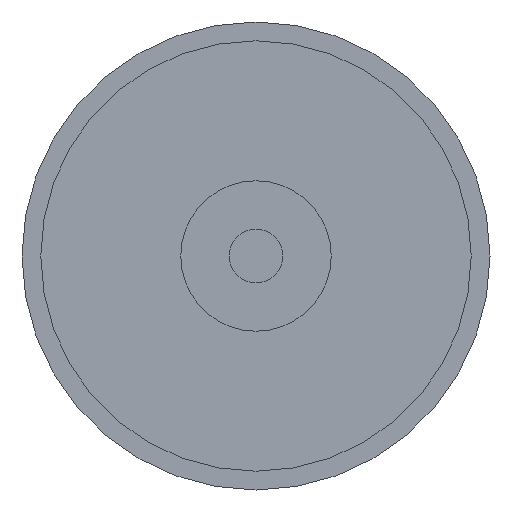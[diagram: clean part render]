
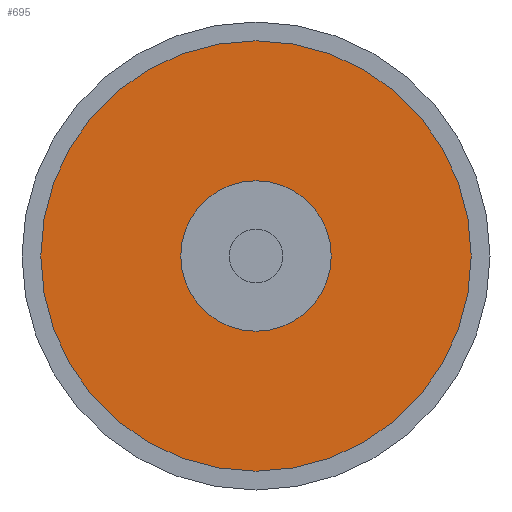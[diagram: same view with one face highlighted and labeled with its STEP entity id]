
A CAD part, front view. The second image highlights one B-rep face of the part: STEP entity #695.
In plain terms, the highlighted planar face has unit normal (0, -1, 0).
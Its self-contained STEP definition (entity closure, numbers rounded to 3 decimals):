
#11 = VERTEX_POINT ( 'NONE', #853 ) ;
#37 = EDGE_CURVE ( 'NONE', #672, #148, #1076, .T. ) ;
#83 = VERTEX_POINT ( 'NONE', #719 ) ;
#86 = DIRECTION ( 'NONE',  ( 0., 0., 1. ) ) ;
#148 = VERTEX_POINT ( 'NONE', #554 ) ;
#166 = DIRECTION ( 'NONE',  ( 0., 1., 0. ) ) ;
#170 = CARTESIAN_POINT ( 'NONE',  ( 1.824, -11.907, 0. ) ) ;
#210 = CARTESIAN_POINT ( 'NONE',  ( 1.824, -11.907, 25.75 ) ) ;
#235 = ORIENTED_EDGE ( 'NONE', *, *, #956, .T. ) ;
#245 = DIRECTION ( 'NONE',  ( 0., -1., 0. ) ) ;
#294 = ORIENTED_EDGE ( 'NONE', *, *, #603, .T. ) ;
#307 = FACE_BOUND ( 'NONE', #985, .T. ) ;
#309 = PLANE ( 'NONE',  #968 ) ;
#320 = AXIS2_PLACEMENT_3D ( 'NONE', #1155, #962, #1017 ) ;
#330 = CARTESIAN_POINT ( 'NONE',  ( 1.824, -11.907, 0. ) ) ;
#340 = DIRECTION ( 'NONE',  ( 0., 0., 1. ) ) ;
#396 = ORIENTED_EDGE ( 'NONE', *, *, #37, .T. ) ;
#510 = AXIS2_PLACEMENT_3D ( 'NONE', #330, #511, #1121 ) ;
#511 = DIRECTION ( 'NONE',  ( 0., 1., 0. ) ) ;
#554 = CARTESIAN_POINT ( 'NONE',  ( 1.824, -11.907, -25.75 ) ) ;
#603 = EDGE_CURVE ( 'NONE', #11, #83, #1007, .T. ) ;
#604 = AXIS2_PLACEMENT_3D ( 'NONE', #170, #166, #86 ) ;
#608 = AXIS2_PLACEMENT_3D ( 'NONE', #847, #245, #340 ) ;
#672 = VERTEX_POINT ( 'NONE', #210 ) ;
#691 = ORIENTED_EDGE ( 'NONE', *, *, #790, .T. ) ;
#695 = ADVANCED_FACE ( 'NONE', ( #1073, #307 ), #309, .T. ) ;
#719 = CARTESIAN_POINT ( 'NONE',  ( 1.824, -11.907, 9. ) ) ;
#790 = EDGE_CURVE ( 'NONE', #148, #672, #895, .T. ) ;
#799 = CIRCLE ( 'NONE', #510, 9. ) ;
#847 = CARTESIAN_POINT ( 'NONE',  ( 1.824, -11.907, 0. ) ) ;
#853 = CARTESIAN_POINT ( 'NONE',  ( 1.824, -11.907, -9. ) ) ;
#894 = EDGE_LOOP ( 'NONE', ( #396, #691 ) ) ;
#895 = CIRCLE ( 'NONE', #608, 25.75 ) ;
#956 = EDGE_CURVE ( 'NONE', #83, #11, #799, .T. ) ;
#962 = DIRECTION ( 'NONE',  ( 0., -1., 0. ) ) ;
#968 = AXIS2_PLACEMENT_3D ( 'NONE', #1194, #1088, #1085 ) ;
#985 = EDGE_LOOP ( 'NONE', ( #235, #294 ) ) ;
#1007 = CIRCLE ( 'NONE', #604, 9. ) ;
#1017 = DIRECTION ( 'NONE',  ( 0., 0., 1. ) ) ;
#1073 = FACE_OUTER_BOUND ( 'NONE', #894, .T. ) ;
#1076 = CIRCLE ( 'NONE', #320, 25.75 ) ;
#1085 = DIRECTION ( 'NONE',  ( 0., 0., -1. ) ) ;
#1088 = DIRECTION ( 'NONE',  ( 0., -1., 0. ) ) ;
#1121 = DIRECTION ( 'NONE',  ( 0., 0., 1. ) ) ;
#1155 = CARTESIAN_POINT ( 'NONE',  ( 1.824, -11.907, 0. ) ) ;
#1194 = CARTESIAN_POINT ( 'NONE',  ( -23.926, -11.907, 0. ) ) ;
